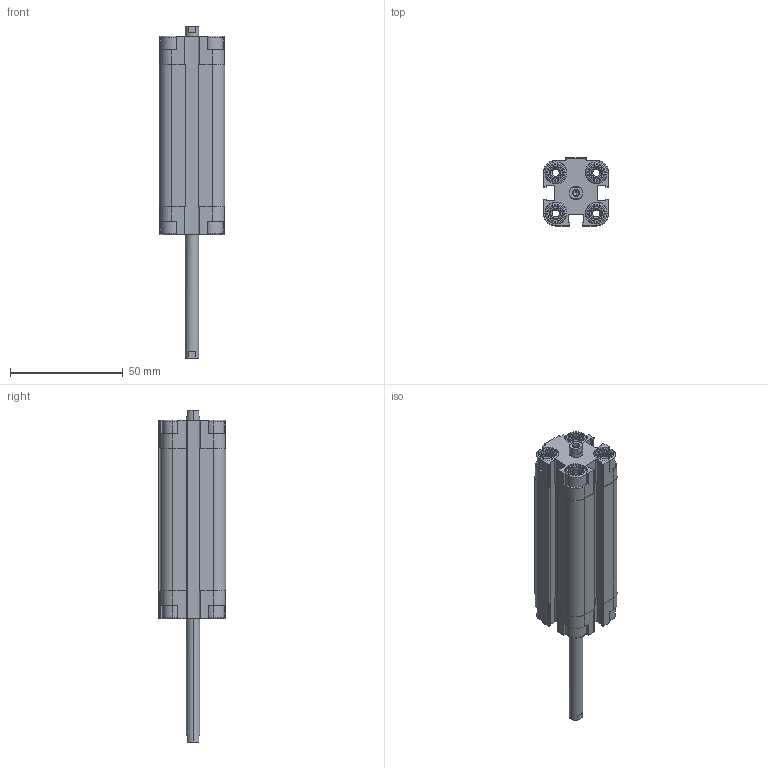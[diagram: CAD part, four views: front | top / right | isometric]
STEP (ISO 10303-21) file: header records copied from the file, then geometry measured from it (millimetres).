
FILE_DESCRIPTION (( 'STEP AP203' ), '1' );
FILE_NAME ('CDVU12-50F-P.STEP', '2020-07-24T18:02:19', ( '' ), ( '' ), 'SwSTEP 2.0', 'SolidWorks 2019', '' );
FILE_SCHEMA (( 'CONFIG_CONTROL_DESIGN' ));
Length unit declared in the file: millimetre
Products named in the file (1): CDVU12-50F-P
Bounding box: 29 x 30 x 147 mm (x, y, z)
Volume: 52404.2 mm3; surface area: 27740.8 mm2
Topology: 2 solids, 2 shells, 566 faces, 1508 edges, 980 vertices
Faces by surface type: plane 338, cylinder 164, cone 48, torus 16
Entity records: 17779 total; most frequent: CARTESIAN_POINT 3623, ORIENTED_EDGE 3000, DIRECTION 2850, EDGE_CURVE 1500, VERTEX_POINT 980, AXIS2_PLACEMENT_3D 975, LINE 900, VECTOR 900
